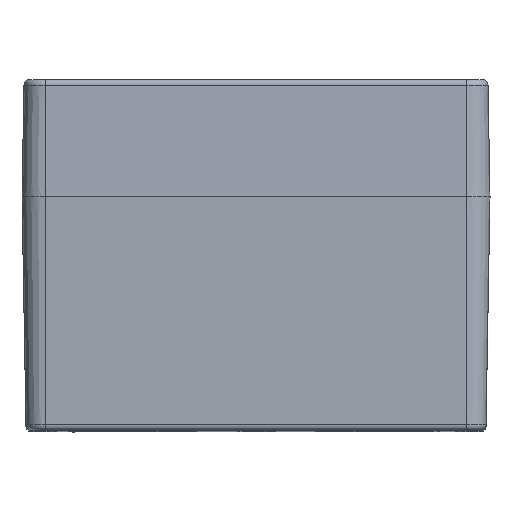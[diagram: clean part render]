
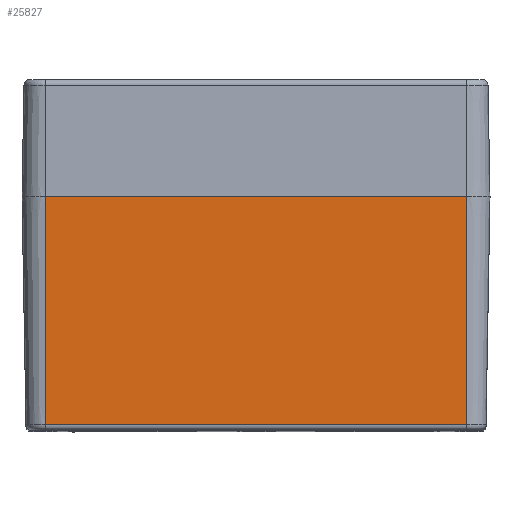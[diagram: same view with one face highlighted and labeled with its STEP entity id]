
A CAD part, top view. The second image highlights one B-rep face of the part: STEP entity #25827.
In plain terms, the highlighted planar face has unit normal (0, -0.018, 1).
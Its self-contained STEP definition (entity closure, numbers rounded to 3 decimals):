
#1284 = EDGE_CURVE ( 'NONE', #27057, #22366, #33095, .T. ) ;
#2267 = DIRECTION ( 'NONE',  ( 1., 0., 0. ) ) ;
#3243 = DIRECTION ( 'NONE',  ( 0., 1., 0.017 ) ) ;
#3509 = EDGE_CURVE ( 'NONE', #28648, #22366, #8716, .T. ) ;
#3999 = CARTESIAN_POINT ( 'NONE',  ( -90., 0., 180. ) ) ;
#7369 = DIRECTION ( 'NONE',  ( 0., -1., -0.017 ) ) ;
#8716 = LINE ( 'NONE', #43503, #25694 ) ;
#8743 = CARTESIAN_POINT ( 'NONE',  ( -90., 0., 180. ) ) ;
#9419 = DIRECTION ( 'NONE',  ( 0., 1., 0.017 ) ) ;
#9779 = ORIENTED_EDGE ( 'NONE', *, *, #32859, .F. ) ;
#14549 = VECTOR ( 'NONE', #9419, 1000. ) ;
#14885 = CARTESIAN_POINT ( 'NONE',  ( -90., -97.544, 178.297 ) ) ;
#17531 = PLANE ( 'NONE',  #34219 ) ;
#19202 = CARTESIAN_POINT ( 'NONE',  ( 90., -97.544, 178.297 ) ) ;
#21249 = FACE_OUTER_BOUND ( 'NONE', #35137, .T. ) ;
#22366 = VERTEX_POINT ( 'NONE', #31980 ) ;
#23464 = ORIENTED_EDGE ( 'NONE', *, *, #3509, .T. ) ;
#24686 = VECTOR ( 'NONE', #2267, 1000. ) ;
#24769 = ORIENTED_EDGE ( 'NONE', *, *, #40688, .T. ) ;
#25694 = VECTOR ( 'NONE', #3243, 1000. ) ;
#25827 = ADVANCED_FACE ( 'NONE', ( #21249 ), #17531, .T. ) ;
#27057 = VERTEX_POINT ( 'NONE', #8743 ) ;
#27682 = DIRECTION ( 'NONE',  ( 0., -0.017, 1. ) ) ;
#28648 = VERTEX_POINT ( 'NONE', #40521 ) ;
#29268 = VERTEX_POINT ( 'NONE', #14885 ) ;
#31980 = CARTESIAN_POINT ( 'NONE',  ( 90., 0., 180. ) ) ;
#32362 = LINE ( 'NONE', #32999, #14549 ) ;
#32859 = EDGE_CURVE ( 'NONE', #29268, #27057, #32362, .T. ) ;
#32999 = CARTESIAN_POINT ( 'NONE',  ( -90., 0., 180. ) ) ;
#33095 = LINE ( 'NONE', #43409, #40913 ) ;
#33654 = DIRECTION ( 'NONE',  ( 1., 0., 0. ) ) ;
#34219 = AXIS2_PLACEMENT_3D ( 'NONE', #3999, #27682, #7369 ) ;
#35137 = EDGE_LOOP ( 'NONE', ( #9779, #24769, #23464, #42438 ) ) ;
#40521 = CARTESIAN_POINT ( 'NONE',  ( 90., -97.544, 178.297 ) ) ;
#40688 = EDGE_CURVE ( 'NONE', #29268, #28648, #42360, .T. ) ;
#40913 = VECTOR ( 'NONE', #33654, 1000. ) ;
#42360 = LINE ( 'NONE', #19202, #24686 ) ;
#42438 = ORIENTED_EDGE ( 'NONE', *, *, #1284, .F. ) ;
#43409 = CARTESIAN_POINT ( 'NONE',  ( -90., 0., 180. ) ) ;
#43503 = CARTESIAN_POINT ( 'NONE',  ( 90., 0., 180. ) ) ;
